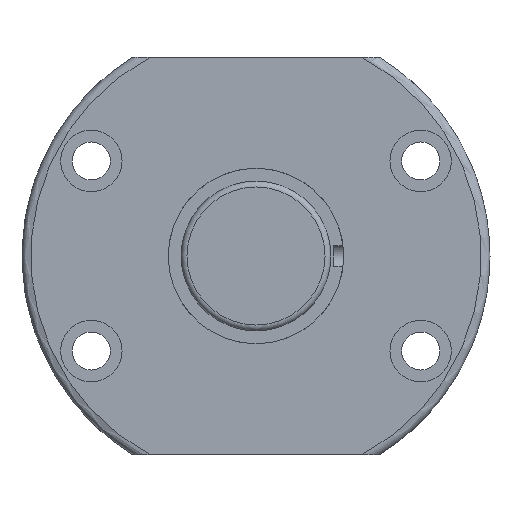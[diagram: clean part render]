
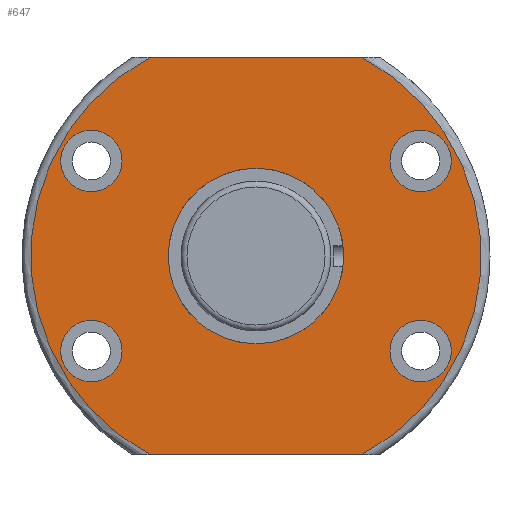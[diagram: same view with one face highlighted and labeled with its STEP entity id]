
A CAD part, left-side view. The second image highlights one B-rep face of the part: STEP entity #647.
In plain terms, the highlighted planar face has unit normal (-1, 0, 0).
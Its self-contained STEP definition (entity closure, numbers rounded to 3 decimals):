
#73=PLANE('',#744);
#102=CIRCLE('',#695,5.25);
#105=CIRCLE('',#700,5.25);
#106=CIRCLE('',#702,5.25);
#111=CIRCLE('',#710,5.25);
#115=CIRCLE('',#718,15.);
#123=CIRCLE('',#733,38.5);
#125=CIRCLE('',#736,38.5);
#237=ORIENTED_EDGE('',*,*,#338,.F.);
#238=ORIENTED_EDGE('',*,*,#303,.T.);
#239=ORIENTED_EDGE('',*,*,#336,.F.);
#240=ORIENTED_EDGE('',*,*,#308,.F.);
#241=ORIENTED_EDGE('',*,*,#317,.T.);
#242=ORIENTED_EDGE('',*,*,#318,.F.);
#243=ORIENTED_EDGE('',*,*,#327,.T.);
#244=ORIENTED_EDGE('',*,*,#323,.T.);
#245=ORIENTED_EDGE('',*,*,#314,.T.);
#303=EDGE_CURVE('',#376,#375,#421,.T.);
#308=EDGE_CURVE('',#379,#380,#423,.T.);
#314=EDGE_CURVE('',#385,#385,#102,.T.);
#317=EDGE_CURVE('',#388,#388,#105,.T.);
#318=EDGE_CURVE('',#389,#389,#106,.T.);
#323=EDGE_CURVE('',#394,#394,#111,.T.);
#327=EDGE_CURVE('',#398,#398,#115,.T.);
#336=EDGE_CURVE('',#380,#375,#123,.T.);
#338=EDGE_CURVE('',#376,#379,#125,.T.);
#375=VERTEX_POINT('',#1039);
#376=VERTEX_POINT('',#1041);
#379=VERTEX_POINT('',#1067);
#380=VERTEX_POINT('',#1069);
#385=VERTEX_POINT('',#1094);
#388=VERTEX_POINT('',#1102);
#389=VERTEX_POINT('',#1105);
#394=VERTEX_POINT('',#1118);
#398=VERTEX_POINT('',#1130);
#421=LINE('',#1040,#432);
#423=LINE('',#1068,#434);
#432=VECTOR('',#800,1000.);
#434=VECTOR('',#804,1000.);
#494=EDGE_LOOP('',(#237,#238,#239,#240));
#495=EDGE_LOOP('',(#241));
#496=EDGE_LOOP('',(#242));
#497=EDGE_LOOP('',(#243));
#498=EDGE_LOOP('',(#244));
#499=EDGE_LOOP('',(#245));
#575=FACE_BOUND('',#494,.T.);
#576=FACE_BOUND('',#495,.T.);
#577=FACE_BOUND('',#496,.T.);
#578=FACE_BOUND('',#497,.T.);
#579=FACE_BOUND('',#498,.T.);
#580=FACE_BOUND('',#499,.T.);
#647=ADVANCED_FACE('',(#575,#576,#577,#578,#579,#580),#73,.T.);
#695=AXIS2_PLACEMENT_3D('',#1093,#814,#815);
#700=AXIS2_PLACEMENT_3D('',#1101,#824,#825);
#702=AXIS2_PLACEMENT_3D('',#1104,#828,#829);
#710=AXIS2_PLACEMENT_3D('',#1117,#844,#845);
#718=AXIS2_PLACEMENT_3D('',#1129,#860,#861);
#733=AXIS2_PLACEMENT_3D('',#1157,#890,#891);
#736=AXIS2_PLACEMENT_3D('',#1160,#896,#897);
#744=AXIS2_PLACEMENT_3D('',#1168,#912,#913);
#800=DIRECTION('',(0.,1.,0.));
#804=DIRECTION('',(0.,1.,0.));
#814=DIRECTION('',(1.,0.,0.));
#815=DIRECTION('',(0.,0.,-1.));
#824=DIRECTION('',(1.,0.,0.));
#825=DIRECTION('',(0.,0.,-1.));
#828=DIRECTION('',(-1.,0.,0.));
#829=DIRECTION('',(0.,0.,-1.));
#844=DIRECTION('',(1.,0.,0.));
#845=DIRECTION('',(0.,0.,-1.));
#860=DIRECTION('',(1.,0.,0.));
#861=DIRECTION('',(0.,0.,-1.));
#890=DIRECTION('',(1.,0.,0.));
#891=DIRECTION('',(0.,0.,-1.));
#896=DIRECTION('',(1.,0.,0.));
#897=DIRECTION('',(0.,0.,-1.));
#912=DIRECTION('',(-1.,0.,0.));
#913=DIRECTION('',(0.,0.,1.));
#1039=CARTESIAN_POINT('',(314.336,45.806,34.));
#1040=CARTESIAN_POINT('',(314.336,66.244,34.));
#1041=CARTESIAN_POINT('',(314.336,9.681,34.));
#1067=CARTESIAN_POINT('',(314.336,9.681,-34.));
#1068=CARTESIAN_POINT('',(314.336,66.244,-34.));
#1069=CARTESIAN_POINT('',(314.336,45.806,-34.));
#1093=CARTESIAN_POINT('',(314.336,-0.402,16.25));
#1094=CARTESIAN_POINT('',(314.336,-0.402,11.));
#1101=CARTESIAN_POINT('',(314.336,55.889,16.25));
#1102=CARTESIAN_POINT('',(314.336,55.889,11.));
#1104=CARTESIAN_POINT('',(314.336,55.889,-16.25));
#1105=CARTESIAN_POINT('',(314.336,55.889,-21.5));
#1117=CARTESIAN_POINT('',(314.336,-0.402,-16.25));
#1118=CARTESIAN_POINT('',(314.336,-0.402,-21.5));
#1129=CARTESIAN_POINT('',(314.336,27.744,0.));
#1130=CARTESIAN_POINT('',(314.336,27.744,-15.));
#1157=CARTESIAN_POINT('',(314.336,27.744,0.));
#1160=CARTESIAN_POINT('',(314.336,27.744,0.));
#1168=CARTESIAN_POINT('',(314.336,66.244,0.));
